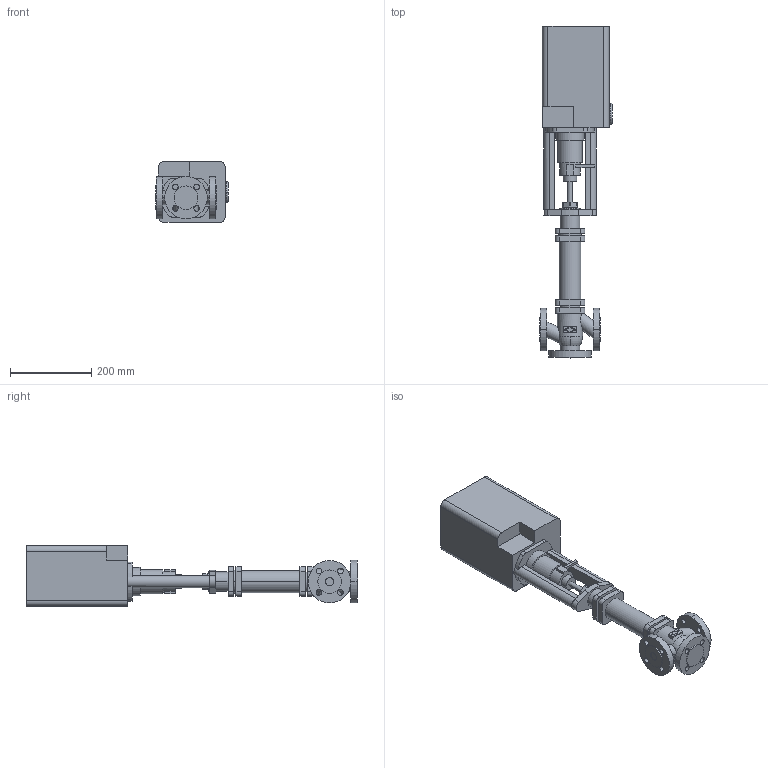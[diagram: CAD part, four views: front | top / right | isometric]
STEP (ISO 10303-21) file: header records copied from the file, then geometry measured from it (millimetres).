
FILE_DESCRIPTION(('OneSpaceDesigner STEP Export'),'2;1');
FILE_NAME('c000002433.stp','2006-09-21T11:42:25',(''),(''),'OneSpace Designer STEP processor for AP214 (Solid Model)','OneSpace Designer 13.20A 18-Aug-2005 (C) CoCreate Software GmbH','');
FILE_SCHEMA(('AUTOMOTIVE_DESIGN { 1 0 10303 214 1 1 1 1 }'));
Length unit declared in the file: millimetre
Products named in the file (2): 1; 2
Bounding box: 179.6 x 819 x 150 mm (x, y, z)
Volume: 8298048 mm3; surface area: 452448.6 mm2
Topology: 2 solids, 2 shells, 229 faces, 583 edges, 388 vertices
Faces by surface type: cylinder 116, plane 109, torus 4
Entity records: 6879 total; most frequent: CARTESIAN_POINT 1508, ORIENTED_EDGE 1166, DIRECTION 1031, EDGE_CURVE 583, VERTEX_POINT 388, AXIS2_PLACEMENT_3D 358, VECTOR 315, LINE 315
